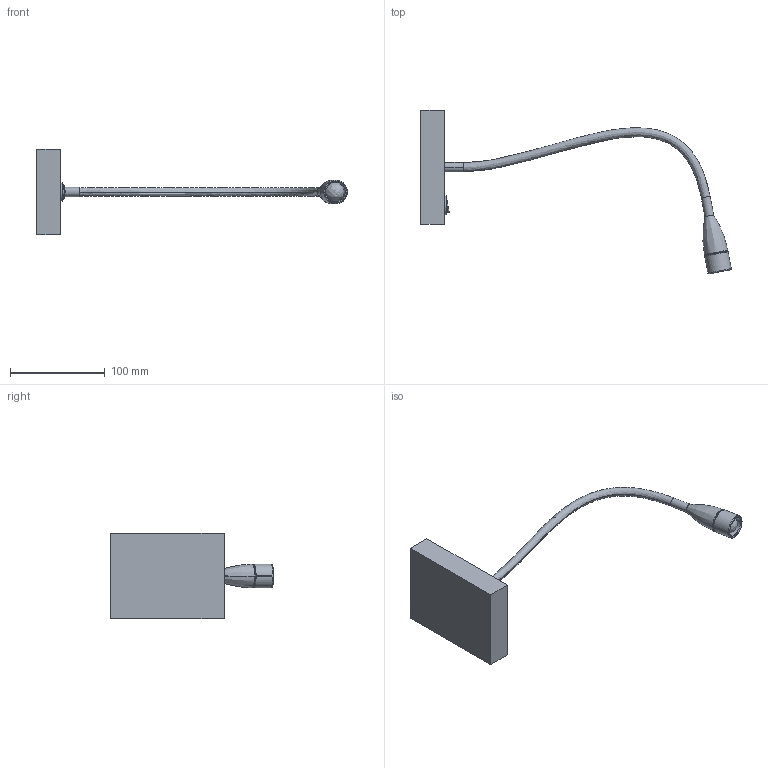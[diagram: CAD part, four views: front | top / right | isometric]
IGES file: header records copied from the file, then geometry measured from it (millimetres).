
Start section: SolidWorks IGES file using analytic representation for surfaces
Global section: file name: C:\Users\Agus\Desktop\Libreria modelos\A1110\A1110.IGS; native system: SolidWorks 2016; preprocessor: SolidWorks 2016; author: Agus; date: 171006.185101; units: millimetre
Bounding box: 326.89 x 172.2 x 90 mm (x, y, z)
Surface area: 48472 mm2 (no closed solid volume)
Topology: 0 solids, 0 shells, 45 faces, 530 edges, 530 vertices
Faces by surface type: bspline 29, revolution 16
